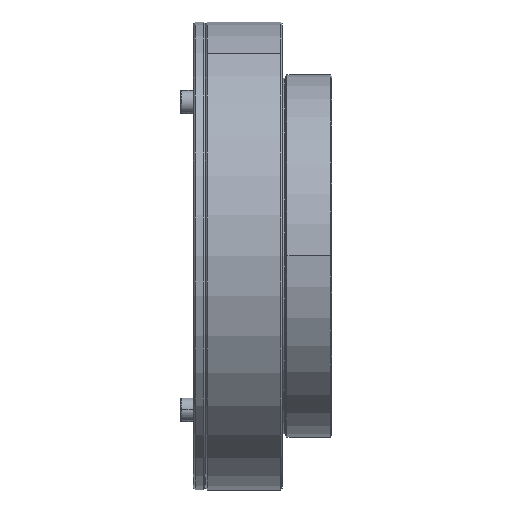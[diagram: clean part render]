
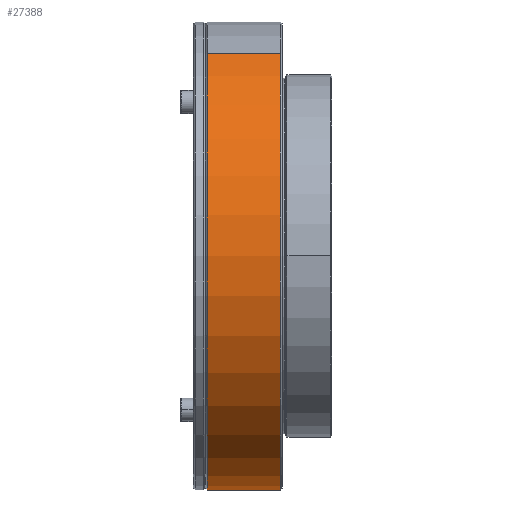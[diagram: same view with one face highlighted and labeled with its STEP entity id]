
A CAD part, top view. The second image highlights one B-rep face of the part: STEP entity #27388.
In plain terms, the highlighted cylindrical face has radius 71 mm (diameter 142 mm), a partial arc.
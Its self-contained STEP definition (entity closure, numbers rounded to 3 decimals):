
#677 = ORIENTED_EDGE ( 'NONE', *, *, #7306, .T. ) ;
#1012 = EDGE_CURVE ( 'NONE', #7816, #4913, #14712, .T. ) ;
#1318 = DIRECTION ( 'NONE',  ( 1., 0., 0. ) ) ;
#2501 = CARTESIAN_POINT ( 'NONE',  ( -19.8, 61.488, 35.5 ) ) ;
#4913 = VERTEX_POINT ( 'NONE', #18792 ) ;
#5739 = CARTESIAN_POINT ( 'NONE',  ( 2.4, 0., 0. ) ) ;
#5921 = CARTESIAN_POINT ( 'NONE',  ( 29.124, -61.488, -35.5 ) ) ;
#7306 = EDGE_CURVE ( 'NONE', #28673, #15376, #24323, .T. ) ;
#7404 = DIRECTION ( 'NONE',  ( 0., 0.866, 0.5 ) ) ;
#7816 = VERTEX_POINT ( 'NONE', #2501 ) ;
#8277 = CIRCLE ( 'NONE', #15470, 71. ) ;
#8760 = AXIS2_PLACEMENT_3D ( 'NONE', #5739, #16525, #16343 ) ;
#8987 = VECTOR ( 'NONE', #1318, 1000. ) ;
#9313 = CIRCLE ( 'NONE', #8760, 71. ) ;
#9386 = ORIENTED_EDGE ( 'NONE', *, *, #1012, .F. ) ;
#10899 = DIRECTION ( 'NONE',  ( 0., 0.866, 0.5 ) ) ;
#13172 = CARTESIAN_POINT ( 'NONE',  ( -19.8, 0., 0. ) ) ;
#14712 = LINE ( 'NONE', #28438, #8987 ) ;
#15376 = VERTEX_POINT ( 'NONE', #21600 ) ;
#15470 = AXIS2_PLACEMENT_3D ( 'NONE', #13172, #24258, #10899 ) ;
#15704 = EDGE_CURVE ( 'NONE', #15376, #4913, #9313, .T. ) ;
#16343 = DIRECTION ( 'NONE',  ( 0., 0.866, 0.5 ) ) ;
#16525 = DIRECTION ( 'NONE',  ( -1., 0., 0. ) ) ;
#17318 = ORIENTED_EDGE ( 'NONE', *, *, #15704, .T. ) ;
#18181 = CARTESIAN_POINT ( 'NONE',  ( 29.124, 0., 0. ) ) ;
#18349 = DIRECTION ( 'NONE',  ( 1., 0., 0. ) ) ;
#18792 = CARTESIAN_POINT ( 'NONE',  ( 2.4, 61.488, 35.5 ) ) ;
#19745 = EDGE_LOOP ( 'NONE', ( #22050, #677, #17318, #9386 ) ) ;
#20430 = FACE_OUTER_BOUND ( 'NONE', #19745, .T. ) ;
#21115 = CARTESIAN_POINT ( 'NONE',  ( -19.8, -61.488, -35.5 ) ) ;
#21600 = CARTESIAN_POINT ( 'NONE',  ( 2.4, -61.488, -35.5 ) ) ;
#22050 = ORIENTED_EDGE ( 'NONE', *, *, #29515, .T. ) ;
#22235 = DIRECTION ( 'NONE',  ( 1., 0., 0. ) ) ;
#24258 = DIRECTION ( 'NONE',  ( 1., 0., 0. ) ) ;
#24323 = LINE ( 'NONE', #5921, #25260 ) ;
#25260 = VECTOR ( 'NONE', #22235, 1000. ) ;
#25334 = AXIS2_PLACEMENT_3D ( 'NONE', #18181, #18349, #7404 ) ;
#27388 = ADVANCED_FACE ( 'NONE', ( #20430 ), #33796, .T. ) ;
#28438 = CARTESIAN_POINT ( 'NONE',  ( 29.124, 61.488, 35.5 ) ) ;
#28673 = VERTEX_POINT ( 'NONE', #21115 ) ;
#29515 = EDGE_CURVE ( 'NONE', #7816, #28673, #8277, .T. ) ;
#33796 = CYLINDRICAL_SURFACE ( 'NONE', #25334, 71. ) ;
